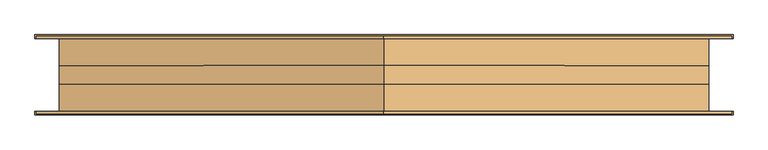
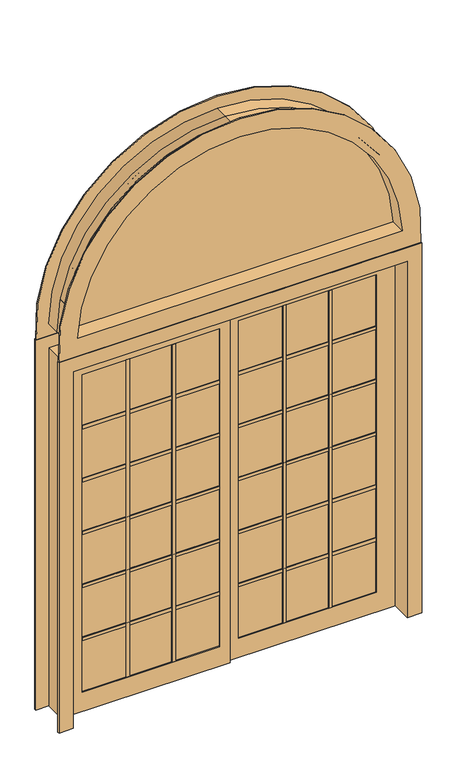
"""IFC4 building model written with IfcOpenShell, lengths in millimetres: door geometry, Pollard_Windows_Vistador Patio Doors_ATS_Half Round : AVDR7180-HRW1800_GC."""

from ifc_helpers import new_model, si_unit, point, frame, frame_2d, origin, place, context, project, spatial, polyline, circle_curve, trimmed, segment, composite_curve, outline, extrude, faceted_brep, source, transform, mapped, element, save
from ifc_brep_helpers import plane_surface, cylinder_surface, revolved_surface, advanced_brep


def door_398cb47a(model_context):
    return source(origin(), model_context, "Body", "SolidModel", [
        extrude(outline(composite_curve([segment(polyline([(2168.398, -887.3216188), (2168.398, 887.3216188)]), True, "CONTINUOUS"), segment(trimmed(circle_curve(frame_2d((2155.698, 0.0)), 887.4125), [point((2168.398, 887.3216188))], [point((3043.1105, 0.0))], False, "CARTESIAN"), True, "CONTINUOUS"), segment(trimmed(circle_curve(frame_2d((2155.698, 0.0)), 887.4125), [point((3043.1105, 0.0))], [point((2168.398, -887.3216188))], False, "CARTESIAN"), True, "CONTINUOUS")], self_intersect=False)), frame((0.0, -2.5, 0.0), z_axis=(0.0, 1.0, 0.0), x_axis=(0.0, 0.0, 1.0)), (0.0, 0.0, 1.0), 5.0),
        advanced_brep(
        [(884.4223407, 2.5, 2171.2514091), (0.0, 2.5, 3040.2570909), (0.0, 25.4, 3040.2570909), (884.4223407, 25.4, 2171.2514091), (897.2545537, -2.5, 2158.5514091), (0.0, -2.5, 3052.9570909), (0.0, 2.5, 3052.9570909), (897.2545537, 2.5, 2158.5514091), (884.4223407, -25.4, 2171.2514091), (0.0, -25.4, 3040.2570909), (0.0, -2.5, 3040.2570909), (884.4223407, -2.5, 2171.2514091), (-884.4223407, 25.4, 2171.2514091), (-884.4223407, 2.5, 2171.2514091), (-897.2545537, 2.5, 2158.5514091), (-897.2545537, -2.5, 2158.5514091), (-884.4223407, -2.5, 2171.2514091), (-884.4223407, -25.4, 2171.2514091), (0.0, -25.4, 3055.8105), (-900.1125, -25.4, 2155.698), (900.1125, -25.4, 2155.698), (0.0, 25.4, 3055.8105), (900.1125, 25.4, 2155.698), (-900.1125, 25.4, 2155.698)],
        [
            (0, 1, circle_curve(frame((0.0, 2.5, 2155.698), z_axis=(0.0, -1.0, 0.0), x_axis=(0.0, 0.0, 1.0)), 884.5590909)),
            (1, 2),
            (2, 3, circle_curve(frame((0.0, 25.4, 2155.698), z_axis=(0.0, 1.0, 0.0), x_axis=(0.0, 0.0, 1.0)), 884.5590909)),
            (3, 0),
            (4, 5, circle_curve(frame((0.0, -2.5, 2155.698), z_axis=(0.0, -1.0, 0.0), x_axis=(0.0, 0.0, 1.0)), 897.2590909)),
            (5, 6),
            (6, 7, circle_curve(frame((0.0, 2.5, 2155.698), z_axis=(0.0, 1.0, 0.0), x_axis=(0.0, 0.0, 1.0)), 897.2590909)),
            (7, 4),
            (8, 9, circle_curve(frame((0.0, -25.4, 2155.698), z_axis=(0.0, -1.0, 0.0), x_axis=(0.0, 0.0, 1.0)), 884.5590909)),
            (9, 10),
            (10, 11, circle_curve(frame((0.0, -2.5, 2155.698), z_axis=(0.0, 1.0, 0.0), x_axis=(0.0, 0.0, 1.0)), 884.5590909)),
            (11, 8),
            (3, 12),
            (12, 13),
            (13, 0),
            (7, 14),
            (14, 15),
            (15, 4),
            (11, 16),
            (16, 17),
            (17, 8),
            (1, 13, circle_curve(frame((0.0, 2.5, 2155.698), z_axis=(0.0, -1.0, 0.0), x_axis=(-1.0, 0.0, 0.0)), 884.5590909)),
            (12, 2, circle_curve(frame((0.0, 25.4, 2155.698), z_axis=(0.0, 1.0, 0.0), x_axis=(-1.0, 0.0, 0.0)), 884.5590909)),
            (6, 14, circle_curve(frame((0.0, 2.5, 2155.698), z_axis=(0.0, -1.0, 0.0), x_axis=(-1.0, 0.0, 0.0)), 897.2590909)),
            (5, 15, circle_curve(frame((0.0, -2.5, 2155.698), z_axis=(0.0, -1.0, 0.0), x_axis=(-1.0, 0.0, 0.0)), 897.2590909)),
            (10, 16, circle_curve(frame((0.0, -2.5, 2155.698), z_axis=(0.0, -1.0, 0.0), x_axis=(-1.0, 0.0, 0.0)), 884.5590909)),
            (9, 17, circle_curve(frame((0.0, -25.4, 2155.698), z_axis=(0.0, -1.0, 0.0), x_axis=(-1.0, 0.0, 0.0)), 884.5590909)),
            (18, 19, circle_curve(frame((0.0, -25.4, 2155.698), z_axis=(0.0, -1.0, 0.0), x_axis=(-1.0, 0.0, 0.0)), 900.1125)),
            (19, 20),
            (20, 18, circle_curve(frame((0.0, -25.4, 2155.698), z_axis=(0.0, -1.0, 0.0), x_axis=(0.0, 0.0, 1.0)), 900.1125)),
            (21, 22, circle_curve(frame((0.0, 25.4, 2155.698), z_axis=(0.0, 1.0, 0.0), x_axis=(0.0, 0.0, 1.0)), 900.1125)),
            (22, 23),
            (23, 21, circle_curve(frame((0.0, 25.4, 2155.698), z_axis=(0.0, 1.0, 0.0), x_axis=(-1.0, 0.0, 0.0)), 900.1125)),
            (21, 18),
            (20, 22),
            (19, 23),
        ],
        [
            revolved_surface(polyline([(0.0, 25.4, 3040.2570908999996), (0.0, 2.5, 3040.2570908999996)]), (0.0, 0.0, 2155.698), (0.0, 1.0, 0.0)),
            revolved_surface(polyline([(0.0, 2.5, 3052.9570909), (0.0, -2.5, 3052.9570909)]), (0.0, 0.0, 2155.698), (0.0, 1.0, 0.0)),
            revolved_surface(polyline([(0.0, -2.5, 3040.2570908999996), (0.0, -25.4, 3040.2570908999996)]), (0.0, 0.0, 2155.698), (0.0, 1.0, 0.0)),
            plane_surface(frame((884.4223407, 25.4, 2171.2514091), z_axis=(0.0, 0.0, 1.0), x_axis=(-1.0, 0.0, 0.0))),
            plane_surface(frame((897.2545537, 2.5, 2158.5514091), z_axis=(0.0, 0.0, 1.0), x_axis=(-1.0, 0.0, 0.0))),
            plane_surface(frame((884.4223407, -2.5, 2171.2514091), z_axis=(0.0, 0.0, 1.0), x_axis=(-1.0, 0.0, 0.0))),
            revolved_surface(polyline([(-884.5590909, 25.4, 2155.698), (-884.5590909, 2.5, 2155.698)]), (0.0, 0.0, 2155.698), (0.0, 1.0, 0.0)),
            plane_surface(frame((0.0, 2.5, 2155.698), z_axis=(0.0, -1.0, 0.0), x_axis=(-1.0, 0.0, 0.0))),
            revolved_surface(polyline([(-897.2590909, 2.5, 2155.698), (-897.2590909, -2.5, 2155.698)]), (0.0, 0.0, 2155.698), (0.0, 1.0, 0.0)),
            plane_surface(frame((0.0, -2.5, 2155.698), z_axis=(0.0, 1.0, 0.0), x_axis=(-1.0, 0.0, 0.0))),
            revolved_surface(polyline([(-884.5590909, -2.5, 2155.698), (-884.5590909, -25.4, 2155.698)]), (0.0, 0.0, 2155.698), (0.0, 1.0, 0.0)),
            plane_surface(frame((0.0, -25.4, 2155.698), z_axis=(0.0, -1.0, 0.0), x_axis=(-1.0, 0.0, 0.0))),
            plane_surface(frame((0.0, 25.4, 2155.698), z_axis=(0.0, 1.0, 0.0), x_axis=(-1.0, 0.0, 0.0))),
            cylinder_surface(frame((0.0, 0.0, 2155.698), z_axis=(0.0, 1.0, 0.0), x_axis=(0.0, 0.0, 1.0)), 900.1125),
            plane_surface(frame((900.1125, -25.4, 2155.698), z_axis=(0.0, 0.0, -1.0), x_axis=(-1.0, 0.0, 0.0))),
            cylinder_surface(frame((0.0, 0.0, 2155.698), z_axis=(0.0, 1.0, 0.0), x_axis=(-1.0, 0.0, 0.0)), 900.1125),
        ],
        [
            (0, [[1, 2, 3, 4]]),
            (1, [[5, 6, 7, 8]]),
            (2, [[9, 10, 11, 12]]),
            (3, [[-4, 13, 14, 15]]),
            (4, [[-8, 16, 17, 18]]),
            (5, [[-12, 19, 20, 21]]),
            (6, [[22, -14, 23, -2]]),
            (7, [[24, -16, -7], [-1, -15, -22]]),
            (8, [[25, -17, -24, -6]]),
            (9, [[-5, -18, -25], [26, -19, -11]]),
            (10, [[27, -20, -26, -10]]),
            (11, [[28, 29, 30], [-9, -21, -27]]),
            (12, [[31, 32, 33], [-23, -13, -3]]),
            (13, [[-31, 34, -30, 35]]),
            (14, [[-35, -29, 36, -32]]),
            (15, [[-33, -36, -28, -34]]),
        ],
    ),
        advanced_brep(
        [(965.9068575, 107.95, 2087.499), (0.0, 107.95, 3124.0095), (0.0, 101.6, 3124.0095), (965.9068575, 101.6, 2087.499), (866.4635498, 25.4, 2188.718), (0.0, 25.4, 3022.7905), (0.0, 107.95, 3022.7905), (866.4635498, 107.95, 2188.718), (887.3216188, -25.4, 2168.398), (0.0, -25.4, 3043.1105), (0.0, 25.4, 3043.1105), (887.3216188, 25.4, 2168.398), (866.4635498, -107.95, 2188.718), (0.0, -107.95, 3022.7905), (0.0, -25.4, 3022.7905), (866.4635498, -25.4, 2188.718), (965.9068575, -101.6, 2087.499), (0.0, -101.6, 3124.0095), (0.0, -107.95, 3124.0095), (965.9068575, -107.95, 2087.499), (900.1125, 101.6, 2155.698), (0.0, 101.6, 3055.8105), (0.0, -101.6, 3055.8105), (900.1125, -101.6, 2155.698), (-965.9068575, 101.6, 2087.499), (-965.9068575, 107.95, 2087.499), (-866.4635498, 107.95, 2188.718), (-866.4635498, 25.4, 2188.718), (-887.3216188, 25.4, 2168.398), (-887.3216188, -25.4, 2168.398), (-866.4635498, -25.4, 2188.718), (-866.4635498, -107.95, 2188.718), (-965.9068575, -107.95, 2087.499), (-965.9068575, -101.6, 2087.499), (-900.1125, -101.6, 2155.698), (-900.1125, 101.6, 2155.698)],
        [
            (0, 1, circle_curve(frame((0.0, 107.95, 2155.698), z_axis=(0.0, -1.0, 0.0), x_axis=(0.0, 0.0, 1.0)), 968.3115)),
            (1, 2),
            (2, 3, circle_curve(frame((0.0, 101.6, 2155.698), z_axis=(0.0, 1.0, 0.0), x_axis=(0.0, 0.0, 1.0)), 968.3115)),
            (3, 0),
            (4, 5, circle_curve(frame((0.0, 25.4, 2155.698), z_axis=(0.0, -1.0, 0.0), x_axis=(0.0, 0.0, 1.0)), 867.0925)),
            (5, 6),
            (6, 7, circle_curve(frame((0.0, 107.95, 2155.698), z_axis=(0.0, 1.0, 0.0), x_axis=(0.0, 0.0, 1.0)), 867.0925)),
            (7, 4),
            (8, 9, circle_curve(frame((0.0, -25.4, 2155.698), z_axis=(0.0, -1.0, 0.0), x_axis=(0.0, 0.0, 1.0)), 887.4125)),
            (9, 10),
            (10, 11, circle_curve(frame((0.0, 25.4, 2155.698), z_axis=(0.0, 1.0, 0.0), x_axis=(0.0, 0.0, 1.0)), 887.4125)),
            (11, 8),
            (12, 13, circle_curve(frame((0.0, -107.95, 2155.698), z_axis=(0.0, -1.0, 0.0), x_axis=(0.0, 0.0, 1.0)), 867.0925)),
            (13, 14),
            (14, 15, circle_curve(frame((0.0, -25.4, 2155.698), z_axis=(0.0, 1.0, 0.0), x_axis=(0.0, 0.0, 1.0)), 867.0925)),
            (15, 12),
            (16, 17, circle_curve(frame((0.0, -101.6, 2155.698), z_axis=(0.0, -1.0, 0.0), x_axis=(0.0, 0.0, 1.0)), 968.3115)),
            (17, 18),
            (18, 19, circle_curve(frame((0.0, -107.95, 2155.698), z_axis=(0.0, 1.0, 0.0), x_axis=(0.0, 0.0, 1.0)), 968.3115)),
            (19, 16),
            (20, 21, circle_curve(frame((0.0, 101.6, 2155.698), z_axis=(0.0, -1.0, 0.0), x_axis=(0.0, 0.0, 1.0)), 900.1125)),
            (21, 22),
            (22, 23, circle_curve(frame((0.0, -101.6, 2155.698), z_axis=(0.0, 1.0, 0.0), x_axis=(0.0, 0.0, 1.0)), 900.1125)),
            (23, 20),
            (3, 24),
            (24, 25),
            (25, 0),
            (7, 26),
            (26, 27),
            (27, 4),
            (11, 28),
            (28, 29),
            (29, 8),
            (15, 30),
            (30, 31),
            (31, 12),
            (19, 32),
            (32, 33),
            (33, 16),
            (23, 34),
            (34, 35),
            (35, 20),
            (2, 24, circle_curve(frame((0.0, 101.6, 2155.698), z_axis=(0.0, -1.0, 0.0), x_axis=(-1.0, 0.0, 0.0)), 968.3115)),
            (35, 21, circle_curve(frame((0.0, 101.6, 2155.698), z_axis=(0.0, 1.0, 0.0), x_axis=(-1.0, 0.0, 0.0)), 900.1125)),
            (1, 25, circle_curve(frame((0.0, 107.95, 2155.698), z_axis=(0.0, -1.0, 0.0), x_axis=(-1.0, 0.0, 0.0)), 968.3115)),
            (6, 26, circle_curve(frame((0.0, 107.95, 2155.698), z_axis=(0.0, -1.0, 0.0), x_axis=(-1.0, 0.0, 0.0)), 867.0925)),
            (5, 27, circle_curve(frame((0.0, 25.4, 2155.698), z_axis=(0.0, -1.0, 0.0), x_axis=(-1.0, 0.0, 0.0)), 867.0925)),
            (10, 28, circle_curve(frame((0.0, 25.4, 2155.698), z_axis=(0.0, -1.0, 0.0), x_axis=(-1.0, 0.0, 0.0)), 887.4125)),
            (9, 29, circle_curve(frame((0.0, -25.4, 2155.698), z_axis=(0.0, -1.0, 0.0), x_axis=(-1.0, 0.0, 0.0)), 887.4125)),
            (14, 30, circle_curve(frame((0.0, -25.4, 2155.698), z_axis=(0.0, -1.0, 0.0), x_axis=(-1.0, 0.0, 0.0)), 867.0925)),
            (13, 31, circle_curve(frame((0.0, -107.95, 2155.698), z_axis=(0.0, -1.0, 0.0), x_axis=(-1.0, 0.0, 0.0)), 867.0925)),
            (18, 32, circle_curve(frame((0.0, -107.95, 2155.698), z_axis=(0.0, -1.0, 0.0), x_axis=(-1.0, 0.0, 0.0)), 968.3115)),
            (17, 33, circle_curve(frame((0.0, -101.6, 2155.698), z_axis=(0.0, -1.0, 0.0), x_axis=(-1.0, 0.0, 0.0)), 968.3115)),
            (22, 34, circle_curve(frame((0.0, -101.6, 2155.698), z_axis=(0.0, -1.0, 0.0), x_axis=(-1.0, 0.0, 0.0)), 900.1125)),
        ],
        [
            cylinder_surface(frame((0.0, -101.6, 2155.698), z_axis=(0.0, 1.0, 0.0), x_axis=(0.0, 0.0, 1.0)), 968.3115),
            revolved_surface(polyline([(0.0, 107.95000000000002, 3022.7905), (0.0, 25.400000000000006, 3022.7905)]), (0.0, -101.6, 2155.698), (0.0, 1.0, 0.0)),
            revolved_surface(polyline([(0.0, 25.400000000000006, 3043.1105), (0.0, -25.400000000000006, 3043.1105)]), (0.0, -101.6, 2155.698), (0.0, 1.0, 0.0)),
            revolved_surface(polyline([(0.0, -25.400000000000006, 3022.7905), (0.0, -107.95, 3022.7905)]), (0.0, -101.6, 2155.698), (0.0, 1.0, 0.0)),
            cylinder_surface(frame((0.0, -101.6, 2155.698), z_axis=(0.0, 1.0, 0.0), x_axis=(0.0, 0.0, 1.0)), 900.1125),
            plane_surface(frame((965.9068575, 101.6, 2087.499), z_axis=(0.0, 0.0, -1.0), x_axis=(-1.0, 0.0, 0.0))),
            plane_surface(frame((866.4635498, 107.95, 2188.718), z_axis=(0.0, 0.0, 1.0), x_axis=(-1.0, 0.0, 0.0))),
            plane_surface(frame((887.3216188, 25.4, 2168.398), z_axis=(0.0, 0.0, 1.0), x_axis=(-1.0, 0.0, 0.0))),
            plane_surface(frame((866.4635498, -25.4, 2188.718), z_axis=(0.0, 0.0, 1.0), x_axis=(-1.0, 0.0, 0.0))),
            plane_surface(frame((965.9068575, -107.95, 2087.499), z_axis=(0.0, 0.0, -1.0), x_axis=(-1.0, 0.0, 0.0))),
            plane_surface(frame((900.1125, -101.6, 2155.698), z_axis=(0.0, 0.0, -1.0), x_axis=(-1.0, 0.0, 0.0))),
            plane_surface(frame((0.0, 101.6, 2155.698), z_axis=(0.0, -1.0, 0.0), x_axis=(-1.0, 0.0, 0.0))),
            cylinder_surface(frame((0.0, -101.6, 2155.698), z_axis=(0.0, 1.0, 0.0), x_axis=(-1.0, 0.0, 0.0)), 968.3115),
            plane_surface(frame((0.0, 107.95, 2155.698), z_axis=(0.0, 1.0, 0.0), x_axis=(-1.0, 0.0, 0.0))),
            revolved_surface(polyline([(-867.0925, 107.95000000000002, 2155.698), (-867.0925, 25.400000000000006, 2155.698)]), (0.0, -101.6, 2155.698), (0.0, 1.0, 0.0)),
            plane_surface(frame((0.0, 25.4, 2155.698), z_axis=(0.0, -1.0, 0.0), x_axis=(-1.0, 0.0, 0.0))),
            revolved_surface(polyline([(-887.4125, 25.400000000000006, 2155.698), (-887.4125, -25.400000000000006, 2155.698)]), (0.0, -101.6, 2155.698), (0.0, 1.0, 0.0)),
            plane_surface(frame((0.0, -25.4, 2155.698), z_axis=(0.0, 1.0, 0.0), x_axis=(-1.0, 0.0, 0.0))),
            revolved_surface(polyline([(-867.0925, -25.400000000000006, 2155.698), (-867.0925, -107.95, 2155.698)]), (0.0, -101.6, 2155.698), (0.0, 1.0, 0.0)),
            plane_surface(frame((0.0, -107.95, 2155.698), z_axis=(0.0, -1.0, 0.0), x_axis=(-1.0, 0.0, 0.0))),
            plane_surface(frame((0.0, -101.6, 2155.698), z_axis=(0.0, 1.0, 0.0), x_axis=(-1.0, 0.0, 0.0))),
            cylinder_surface(frame((0.0, -101.6, 2155.698), z_axis=(0.0, 1.0, 0.0), x_axis=(-1.0, 0.0, 0.0)), 900.1125),
        ],
        [
            (0, [[1, 2, 3, 4]]),
            (1, [[5, 6, 7, 8]]),
            (2, [[9, 10, 11, 12]]),
            (3, [[13, 14, 15, 16]]),
            (0, [[17, 18, 19, 20]]),
            (4, [[21, 22, 23, 24]]),
            (5, [[-4, 25, 26, 27]]),
            (6, [[-8, 28, 29, 30]]),
            (7, [[-12, 31, 32, 33]]),
            (8, [[-16, 34, 35, 36]]),
            (9, [[-20, 37, 38, 39]]),
            (10, [[-24, 40, 41, 42]]),
            (11, [[43, -25, -3], [-21, -42, 44]]),
            (12, [[45, -26, -43, -2]]),
            (13, [[-1, -27, -45], [46, -28, -7]]),
            (14, [[47, -29, -46, -6]]),
            (15, [[48, -31, -11], [-5, -30, -47]]),
            (16, [[49, -32, -48, -10]]),
            (17, [[-9, -33, -49], [50, -34, -15]]),
            (18, [[51, -35, -50, -14]]),
            (19, [[52, -37, -19], [-13, -36, -51]]),
            (12, [[53, -38, -52, -18]]),
            (20, [[-17, -39, -53], [54, -40, -23]]),
            (21, [[-44, -41, -54, -22]]),
        ],
    ),
        extrude(outline(polyline([(-54.991, -10.0399998), (-790.1305, -10.0399998), (-790.1305, -4.9599998), (-54.991, -4.9599998), (-54.991, -10.0399998)])), frame((0.0, 0.0, 109.982), z_axis=(0.0, 0.0, 1.0), x_axis=(1.0, 0.0, 0.0)), (0.0, 0.0, 1.0), 1790.586),
        extrude(outline(polyline([(554.084, 14.9999996), (554.084, 9.9999998), (549.084, 9.9999998), (549.084, 4.9999998), (554.084, 4.9999998), (554.084, 0.0), (536.084, 0.0), (536.084, 4.9999998), (541.084, 4.9999998), (541.084, 9.9999998), (536.084, 9.9999998), (536.084, 14.9999996), (554.084, 14.9999996)])), frame((0.0, 0.0, 109.982), z_axis=(0.0, 0.0, 1.0), x_axis=(1.0, 0.0, 0.0)), (0.0, 0.0, 1.0), 1790.586),
        extrude(outline(polyline([(309.0375, 14.9999996), (309.0375, 9.9999998), (304.0375, 9.9999998), (304.0375, 4.9999998), (309.0375, 4.9999998), (309.0375, 0.0), (291.0375, 0.0), (291.0375, 4.9999998), (296.0375, 4.9999998), (296.0375, 9.9999998), (291.0375, 9.9999998), (291.0375, 14.9999996), (309.0375, 14.9999996)])), frame((0.0, 0.0, 109.982), z_axis=(0.0, 0.0, 1.0), x_axis=(1.0, 0.0, 0.0)), (0.0, 0.0, 1.0), 1790.586),
        extrude(outline(polyline([(-291.0375, 0.0), (-291.0375, -4.9999998), (-296.0375, -4.9999998), (-296.0375, -9.9999998), (-291.0375, -9.9999998), (-291.0375, -14.9999996), (-309.0375, -14.9999996), (-309.0375, -9.9999998), (-304.0375, -9.9999998), (-304.0375, -4.9999998), (-309.0375, -4.9999998), (-309.0375, 0.0), (-291.0375, 0.0)])), frame((0.0, 0.0, 109.982), z_axis=(0.0, 0.0, 1.0), x_axis=(1.0, 0.0, 0.0)), (0.0, 0.0, 1.0), 1790.586),
        extrude(outline(polyline([(-536.084, 0.0), (-536.084, -4.9999998), (-541.084, -4.9999998), (-541.084, -9.9999998), (-536.084, -9.9999998), (-536.084, -14.9999996), (-554.084, -14.9999996), (-554.084, -9.9999998), (-549.084, -9.9999998), (-549.084, -4.9999998), (-554.084, -4.9999998), (-554.084, 0.0), (-536.084, 0.0)])), frame((0.0, 0.0, 109.982), z_axis=(0.0, 0.0, 1.0), x_axis=(1.0, 0.0, 0.0)), (0.0, 0.0, 1.0), 1790.586),
        extrude(outline(polyline([(54.991, 10.0399998), (790.1305, 10.0399998), (790.1305, 4.9599998), (54.991, 4.9599998), (54.991, 10.0399998)])), frame((0.0, 0.0, 109.982), z_axis=(0.0, 0.0, 1.0), x_axis=(1.0, 0.0, 0.0)), (0.0, 0.0, 1.0), 1790.586),
        extrude(outline(polyline([(2010.55, 891.3625), (2010.55, 0.0), (0.0, 0.0), (0.0, 891.3625), (2010.55, 891.3625)]), holes=[polyline([(109.982, 790.1305), (109.982, 54.991), (1900.568, 54.991), (1900.568, 790.1305), (109.982, 790.1305)])]), frame((0.0, 0.0, 0.0), z_axis=(0.0, 1.0, 0.0), x_axis=(0.0, 0.0, 1.0)), (0.0, 0.0, 1.0), 14.9999996),
        extrude(outline(polyline([(2010.55, -891.3625), (0.0, -891.3625), (0.0, 0.0), (2010.55, 0.0), (2010.55, -891.3625)]), holes=[polyline([(1900.568, -790.1305), (1900.568, -54.991), (109.982, -54.991), (109.982, -790.1305), (1900.568, -790.1305)])]), frame((0.0, -14.9999996, 0.0), z_axis=(0.0, 1.0, 0.0), x_axis=(0.0, 0.0, 1.0)), (0.0, 0.0, 1.0), 14.9999996),
        faceted_brep([(968.3115, 111.6, 0.0), (968.3115, 101.6, 0.0), (900.1125, 101.6, 0.0), (900.1125, -101.6, 0.0), (968.3115, -101.6, 0.0), (968.3115, -111.6, 0.0), (891.3625, -111.6, 0.0), (891.3625, 111.6, 0.0), (968.3115, 111.6, 2087.499), (968.3115, 101.6, 2087.499), (-968.3115, 101.6, 2087.499), (-968.3115, 101.6, 0.0), (-900.1125, 101.6, 0.0), (-900.1125, 101.6, 2019.3), (900.1125, 101.6, 2019.3), (900.1125, -101.6, 2019.3), (-900.1125, -101.6, 2019.3), (-900.1125, -101.6, 0.0), (-968.3115, -101.6, 0.0), (-968.3115, -101.6, 2087.499), (968.3115, -101.6, 2087.499), (968.3115, -111.6, 2087.499), (-968.3115, -111.6, 2087.499), (-968.3115, -111.6, 0.0), (-891.3625, -111.6, 0.0), (-891.3625, -111.6, 2010.55), (891.3625, -111.6, 2010.55), (891.3625, 111.6, 2010.55), (-891.3625, 111.6, 2010.55), (-891.3625, 111.6, 0.0), (-968.3115, 111.6, 0.0), (-968.3115, 111.6, 2087.499)], [[[0, 1, 2, 3, 4, 5, 6, 7]], [[1, 0, 8, 9]], [[2, 1, 9, 10, 11, 12, 13, 14]], [[2, 14, 15, 3]], [[4, 3, 15, 16, 17, 18, 19, 20]], [[5, 4, 20, 21]], [[6, 5, 21, 22, 23, 24, 25, 26]], [[6, 26, 27, 7]], [[0, 7, 27, 28, 29, 30, 31, 8]], [[30, 29, 24, 23, 18, 17, 12, 11]], [[28, 25, 24, 29]], [[22, 19, 18, 23]], [[16, 13, 12, 17]], [[10, 31, 30, 11]], [[9, 8, 31, 10]], [[27, 26, 25, 28]], [[15, 14, 13, 16]], [[21, 20, 19, 22]]]),
        extrude(outline(polyline([(14.9999996, 1014.275), (14.9999996, 996.275), (9.9999998, 996.275), (9.9999998, 1001.275), (4.9999998, 1001.275), (4.9999998, 996.275), (0.0, 996.275), (0.0, 1014.275), (4.9999998, 1014.275), (4.9999998, 1009.275), (9.9999998, 1009.275), (9.9999998, 1014.275), (14.9999996, 1014.275)])), frame((54.991, 0.0, 0.0), z_axis=(1.0, 0.0, 0.0), x_axis=(0.0, 1.0, 0.0)), (0.0, 0.0, 1.0), 735.1395),
        extrude(outline(polyline([(14.9999996, 1611.137), (14.9999996, 1593.137), (9.9999998, 1593.137), (9.9999998, 1598.137), (4.9999998, 1598.137), (4.9999998, 1593.137), (0.0, 1593.137), (0.0, 1611.137), (4.9999998, 1611.137), (4.9999998, 1606.137), (9.9999998, 1606.137), (9.9999998, 1611.137), (14.9999996, 1611.137)])), frame((54.991, 0.0, 0.0), z_axis=(1.0, 0.0, 0.0), x_axis=(0.0, 1.0, 0.0)), (0.0, 0.0, 1.0), 735.1395),
        extrude(outline(polyline([(-14.9999996, 1593.137), (-14.9999996, 1611.137), (-9.9999998, 1611.137), (-9.9999998, 1606.137), (-4.9999998, 1606.137), (-4.9999998, 1611.137), (0.0, 1611.137), (0.0, 1593.137), (-4.9999998, 1593.137), (-4.9999998, 1598.137), (-9.9999998, 1598.137), (-9.9999998, 1593.137), (-14.9999996, 1593.137)])), frame((-790.1305, 0.0, 0.0), z_axis=(1.0, 0.0, 0.0), x_axis=(0.0, 1.0, 0.0)), (0.0, 0.0, 1.0), 735.1395),
        extrude(outline(polyline([(14.9999996, 1312.706), (14.9999996, 1294.706), (9.9999998, 1294.706), (9.9999998, 1299.706), (4.9999998, 1299.706), (4.9999998, 1294.706), (0.0, 1294.706), (0.0, 1312.706), (4.9999998, 1312.706), (4.9999998, 1307.706), (9.9999998, 1307.706), (9.9999998, 1312.706), (14.9999996, 1312.706)])), frame((54.991, 0.0, 0.0), z_axis=(1.0, 0.0, 0.0), x_axis=(0.0, 1.0, 0.0)), (0.0, 0.0, 1.0), 735.1395),
        extrude(outline(polyline([(-14.9999996, 1294.706), (-14.9999996, 1312.706), (-9.9999998, 1312.706), (-9.9999998, 1307.706), (-4.9999998, 1307.706), (-4.9999998, 1312.706), (0.0, 1312.706), (0.0, 1294.706), (-4.9999998, 1294.706), (-4.9999998, 1299.706), (-9.9999998, 1299.706), (-9.9999998, 1294.706), (-14.9999996, 1294.706)])), frame((-790.1305, 0.0, 0.0), z_axis=(1.0, 0.0, 0.0), x_axis=(0.0, 1.0, 0.0)), (0.0, 0.0, 1.0), 735.1395),
        extrude(outline(polyline([(14.9999996, 715.844), (14.9999996, 697.844), (9.9999998, 697.844), (9.9999998, 702.844), (4.9999998, 702.844), (4.9999998, 697.844), (0.0, 697.844), (0.0, 715.844), (4.9999998, 715.844), (4.9999998, 710.844), (9.9999998, 710.844), (9.9999998, 715.844), (14.9999996, 715.844)])), frame((54.991, 0.0, 0.0), z_axis=(1.0, 0.0, 0.0), x_axis=(0.0, 1.0, 0.0)), (0.0, 0.0, 1.0), 735.1395),
        extrude(outline(polyline([(-14.9999996, 697.844), (-14.9999996, 715.844), (-9.9999998, 715.844), (-9.9999998, 710.844), (-4.9999998, 710.844), (-4.9999998, 715.844), (0.0, 715.844), (0.0, 697.844), (-4.9999998, 697.844), (-4.9999998, 702.844), (-9.9999998, 702.844), (-9.9999998, 697.844), (-14.9999996, 697.844)])), frame((-790.1305, 0.0, 0.0), z_axis=(1.0, 0.0, 0.0), x_axis=(0.0, 1.0, 0.0)), (0.0, 0.0, 1.0), 735.1395),
        extrude(outline(polyline([(14.9999996, 417.413), (14.9999996, 399.413), (9.9999998, 399.413), (9.9999998, 404.413), (4.9999998, 404.413), (4.9999998, 399.413), (0.0, 399.413), (0.0, 417.413), (4.9999998, 417.413), (4.9999998, 412.413), (9.9999998, 412.413), (9.9999998, 417.413), (14.9999996, 417.413)])), frame((54.991, 0.0, 0.0), z_axis=(1.0, 0.0, 0.0), x_axis=(0.0, 1.0, 0.0)), (0.0, 0.0, 1.0), 735.1395),
        extrude(outline(polyline([(-14.9999996, 399.413), (-14.9999996, 417.413), (-9.9999998, 417.413), (-9.9999998, 412.413), (-4.9999998, 412.413), (-4.9999998, 417.413), (0.0, 417.413), (0.0, 399.413), (-4.9999998, 399.413), (-4.9999998, 404.413), (-9.9999998, 404.413), (-9.9999998, 399.413), (-14.9999996, 399.413)])), frame((-790.1305, 0.0, 0.0), z_axis=(1.0, 0.0, 0.0), x_axis=(0.0, 1.0, 0.0)), (0.0, 0.0, 1.0), 735.1395),
        extrude(outline(polyline([(-14.9999996, 996.275), (-14.9999996, 1014.275), (-9.9999998, 1014.275), (-9.9999998, 1009.275), (-4.9999998, 1009.275), (-4.9999998, 1014.275), (0.0, 1014.275), (0.0, 996.275), (-4.9999998, 996.275), (-4.9999998, 1001.275), (-9.9999998, 1001.275), (-9.9999998, 996.275), (-14.9999996, 996.275)])), frame((-790.1305, 0.0, 0.0), z_axis=(1.0, 0.0, 0.0), x_axis=(0.0, 1.0, 0.0)), (0.0, 0.0, 1.0), 735.1395),
    ])


if __name__ == "__main__":
    model = new_model("IFC4")
    model_context = context("Model", 3, world=origin())
    ifc_project = project(units=[si_unit("LENGTHUNIT", "METRE", prefix="MILLI")], contexts=[model_context])
    site = spatial("IfcSite", under=ifc_project)
    building = spatial("IfcBuilding", under=site)
    placement = place(None, origin())
    door_shape = door_398cb47a(model_context)
    element("IfcDoor", 1, ObjectType="Pollard_Windows_Vistador Patio Doors_ATS_Half Round : AVDR7180-HRW1800_GC", at=placement, inside=building, context=model_context, shape_type="MappedRepresentation", body=[
        mapped(door_shape, transform((0.0, 0.0, 0.0), x_axis=(1.0, 0.0, 0.0), y_axis=(0.0, 1.0, 0.0), z_axis=(0.0, 0.0, 1.0))),
    ])
    save(model, "model.ifc")
